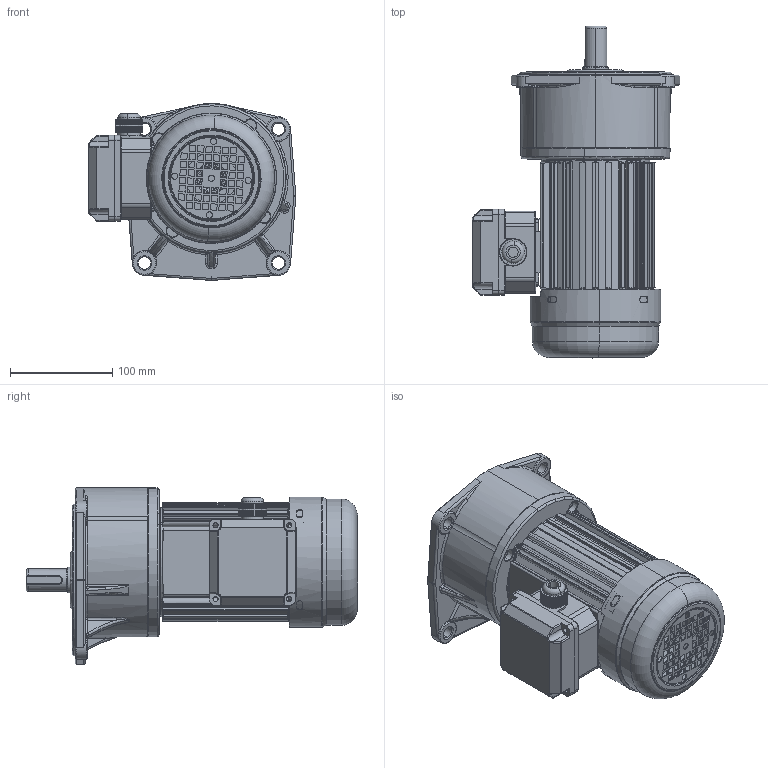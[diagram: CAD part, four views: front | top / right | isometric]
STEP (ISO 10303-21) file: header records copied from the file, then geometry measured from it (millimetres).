
FILE_DESCRIPTION (( 'STEP AP203' ), '1' );
FILE_NAME ('200W饜2#湍价陬蕾宒.STEP', '2020-04-17T02:57:04', ( '' ), ( '' ), 'SwSTEP 2.0', 'SolidWorks 2019', '' );
FILE_SCHEMA (( 'CONFIG_CONTROL_DESIGN' ));
Length unit declared in the file: millimetre
Products named in the file (8): 100W价陬瑞欶; 2#蕾宒熬厒ん; 諉芛; 蜊輛綴諉盄碟釱3; 湍价陬諉盄碟裔; 200W饜2#湍价陬蕾宒; 100W棠憤迖殤; 200W饜2#蕾宒
Assembly tree (7 placements, depth 2):
  200W饜2#湍价陬蕾宒
    200W饜2#蕾宒
    2#蕾宒熬厒ん
    100W棠憤迖殤
    100W价陬瑞欶
    蜊輛綴諉盄碟釱3
    諉芛
    湍价陬諉盄碟裔
Bounding box: 202.98 x 324.5 x 172.99 mm (x, y, z)
Volume: 1955944.7 mm3; surface area: 478738 mm2
Topology: 8 solids, 8 shells, 2384 faces, 6193 edges, 3842 vertices
Faces by surface type: cylinder 760, plane 720, bspline 426, torus 266, cone 156, sphere 56
Entity records: 99546 total; most frequent: CARTESIAN_POINT 43428, ORIENTED_EDGE 12272, DIRECTION 10727, EDGE_CURVE 6136, AXIS2_PLACEMENT_3D 4089, VERTEX_POINT 3846, EDGE_LOOP 2656, VECTOR 2549
